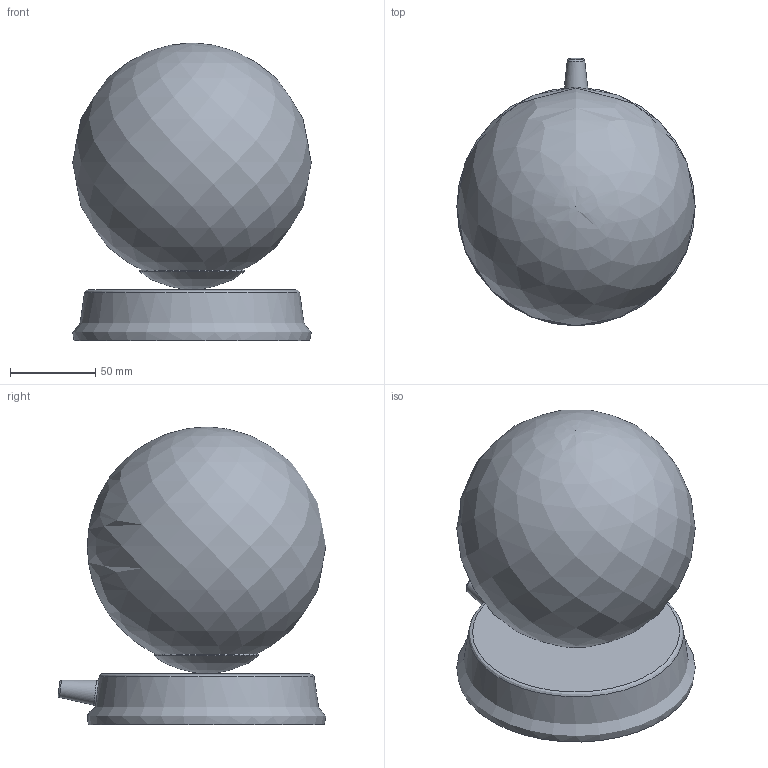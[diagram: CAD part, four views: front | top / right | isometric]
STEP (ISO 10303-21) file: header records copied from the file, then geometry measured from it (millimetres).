
FILE_DESCRIPTION ((), '1');
FILE_NAME ('C:\Users\MiCHAL\Desktop\ALDEX - Modele 3D 17.08.2022\1076B1_S\1076B1_S\1076B1_S.stp', '2022-09-20T02:58:39', ('Unknown'), ('Unknown'), 'HarmonyWare STEP v2.1.4', 'HarmonyWare Translators', '');
FILE_SCHEMA (('CONFIG_CONTROL_DESIGN'));
Length unit declared in the file: centimetre
Assembly tree (4 placements, depth 2):
  (unnamed)
    (unnamed)
    (unnamed)
    (unnamed)
    (unnamed)
Bounding box: 140 x 157.14 x 174.73 mm (x, y, z)
Volume: 1870830.3 mm3; surface area: 109733.4 mm2
Topology: 4 solids, 4 shells, 13 faces, 32 edges, 29 vertices
Faces by surface type: bspline 13
Entity records: 2540 total; most frequent: CARTESIAN_POINT 1639, PERSON 48, ORGANIZATION 48, PERSON_AND_ORGANIZATION 48, ORIENTED_EDGE 34, CALENDAR_DATE 33, COORDINATED_UNIVERSAL_TIME_OFFSET 33, LOCAL_TIME 33
